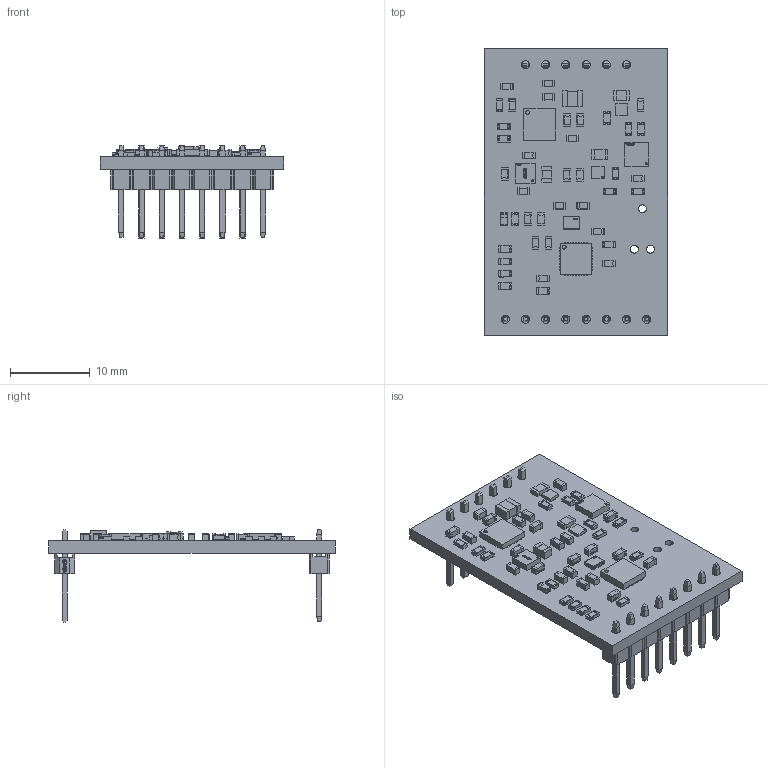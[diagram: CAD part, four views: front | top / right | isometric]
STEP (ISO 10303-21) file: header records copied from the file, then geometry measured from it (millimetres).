
FILE_DESCRIPTION(('KiCad electronic assembly'),'2;1');
FILE_NAME('LiCM-03S-v1.3.step','2026-10-03T16:21:37',('Pcbnew'),('Kicad' ),'Open CASCADE STEP processor 7.7','KiCad to STEP converter', 'Unknown');
FILE_SCHEMA(('AUTOMOTIVE_DESIGN { 1 0 10303 214 1 1 1 1 }'));
Length unit declared in the file: millimetre
Products named in the file (32): LiCM-03S-v1.3 1; RC0805FR-10220RL; COMPOUND; R0603; C0603_L1.6-W0.8-H0.8; SOLID; BQ27427YZFR; DFN-8_L3.0-W3.0-H0.9-P0.65; BQ298012RUGR; ESP32-H2FH4; D0603-RD; AIMC-0805-2N2S-T; CRYSTAL-SMD_4P-L2.0-W1.6-BL; DFE252012F-1R0M=P2; CP2102C-A01-GQFN24; SON-10_L2.5-W2.5-H0.8-P0.50; pinhead_6p; pinhead1_8p; LiCM-03S-v1.3 PCB
Assembly tree (69 placements, depth 3):
  LiCM-03S-v1.3 1
    RC0805FR-10220RL  x2
      COMPOUND
    R0603  x16
      COMPOUND
    C0603_L1.6-W0.8-H0.8  x23
      SOLID
    BQ27427YZFR
      COMPOUND
    DFN-8_L3.0-W3.0-H0.9-P0.65
      SOLID
    BQ298012RUGR
      COMPOUND
    ESP32-H2FH4
      COMPOUND
    D0603-RD
      COMPOUND
    AIMC-0805-2N2S-T
      COMPOUND
    CRYSTAL-SMD_4P-L2.0-W1.6-BL
      COMPOUND
    DFE252012F-1R0M=P2
      COMPOUND
    CP2102C-A01-GQFN24
      COMPOUND
    SON-10_L2.5-W2.5-H0.8-P0.50
      COMPOUND
    pinhead_6p
      SOLID
    pinhead1_8p
      COMPOUND
    LiCM-03S-v1.3 PCB
Bounding box: 23 x 36 x 11.6 mm (x, y, z)
Volume: 1616.3 mm3; surface area: 3318.5 mm2
Topology: 225 solids, 225 shells, 15607 faces, 41811 edges, 27538 vertices
Faces by surface type: plane 9606, bspline 4838, cylinder 962, sphere 193, torus 8
Full cylindrical faces by diameter (mm): 0.198 x1, 0.5 x2, 0.991 x3, 1.02 x14
Entity records: 283646 total; most frequent: CARTESIAN_POINT 77757, DIRECTION 29451, LINE 22801, VECTOR 22801, ORIENTED_EDGE 19426, PCURVE 19426, DEFINITIONAL_REPRESENTATION 19426, EDGE_CURVE 9713
